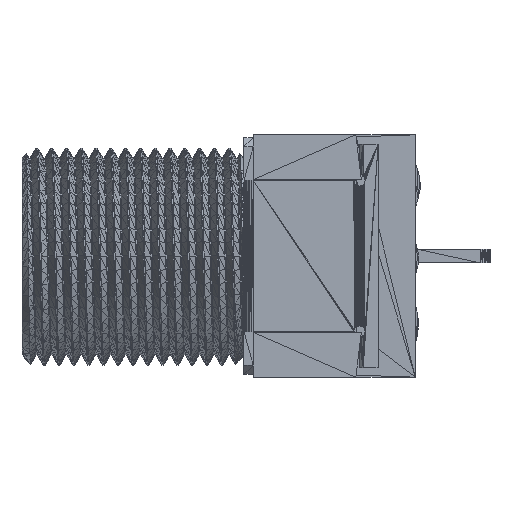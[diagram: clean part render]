
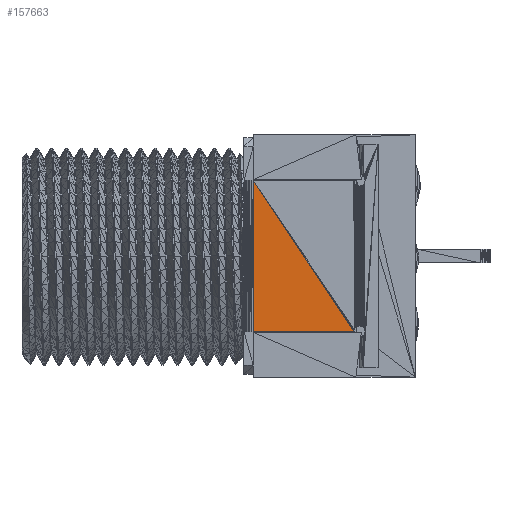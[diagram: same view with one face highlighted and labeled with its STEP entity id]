
A CAD part, left-side view. The second image highlights one B-rep face of the part: STEP entity #157663.
In plain terms, the highlighted planar face has unit normal (-1, 0, 0).
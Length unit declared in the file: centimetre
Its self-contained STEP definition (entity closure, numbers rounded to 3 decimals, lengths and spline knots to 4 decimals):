
#4048=DIRECTION('',(0.,1.,0.));
#4438=DIRECTION('',(0.,0.,-1.));
#4796=DIRECTION('',(0.,-0.555,-0.832));
#12792=VECTOR('',#4048,1.);
#13182=VECTOR('',#4438,1.);
#13540=VECTOR('',#4796,1.);
#17785=CARTESIAN_POINT('',(-0.4313,0.3641,0.405));
#17798=CARTESIAN_POINT('',(-0.4313,-0.1759,-0.405));
#17799=CARTESIAN_POINT('',(-0.4313,0.3641,-0.405));
#23570=VERTEX_POINT('',#17785);
#23583=VERTEX_POINT('',#17798);
#23584=VERTEX_POINT('',#17799);
#29640=LINE('',#17785,#13540);
#29662=LINE('',#17785,#13182);
#29663=LINE('',#17798,#12792);
#47087=EDGE_CURVE('',#23570,#23583,#29640,.T.);
#47109=EDGE_CURVE('',#23570,#23584,#29662,.T.);
#47110=EDGE_CURVE('',#23583,#23584,#29663,.T.);
#64556=ORIENTED_EDGE('',*,*,#47109,.T.);
#81981=ORIENTED_EDGE('',*,*,#47087,.F.);
#82004=ORIENTED_EDGE('',*,*,#47110,.F.);
#99278=EDGE_LOOP('',(#81981,#64556,#82004));
#110955=FACE_OUTER_BOUND('',#99278,.T.);
#122964=DIRECTION('',(-1.,0.,0.));
#122965=AXIS2_PLACEMENT_3D('',#17798,#122964,#4796);
#145986=PLANE('',#122965);
#157663=ADVANCED_FACE('',(#110955),#145986,.T.);
